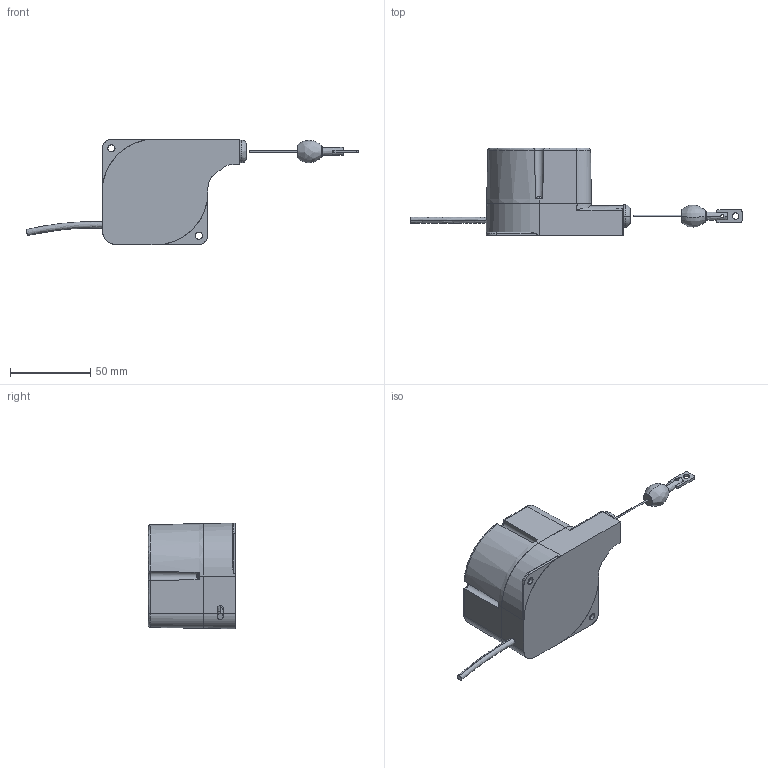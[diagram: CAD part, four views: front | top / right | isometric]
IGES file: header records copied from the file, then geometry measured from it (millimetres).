
Start section: SolidWorks IGES file using analytic representation for surfaces
Bounding box: 207.17 x 54.8 x 66 mm (x, y, z)
Surface area: 33656.3 mm2 (no closed solid volume)
Topology: 0 solids, 0 shells, 254 faces, 3808 edges, 3806 vertices
Faces by surface type: bspline 160, revolution 94
